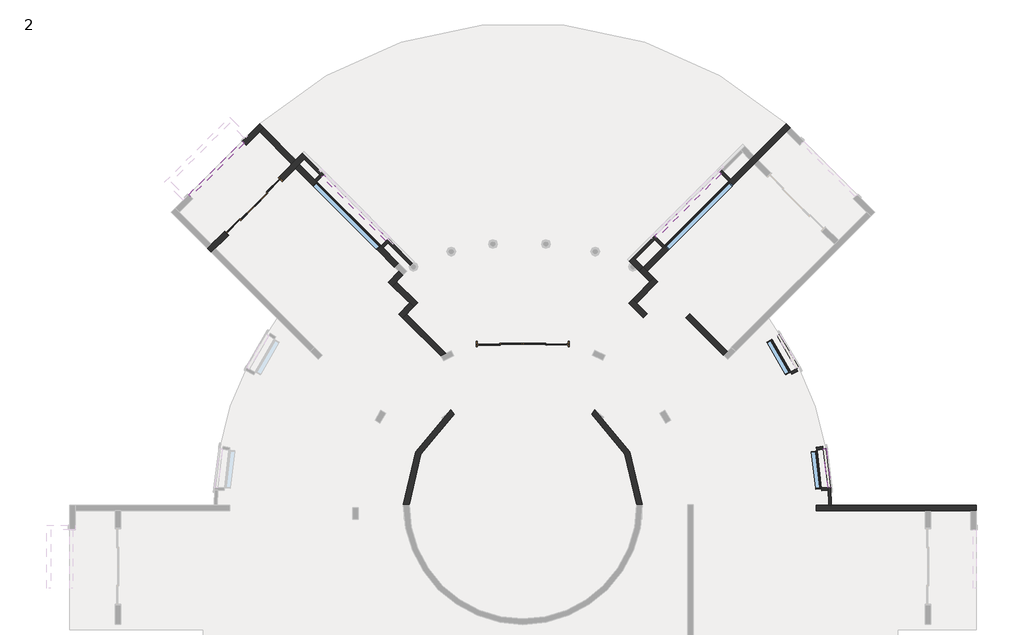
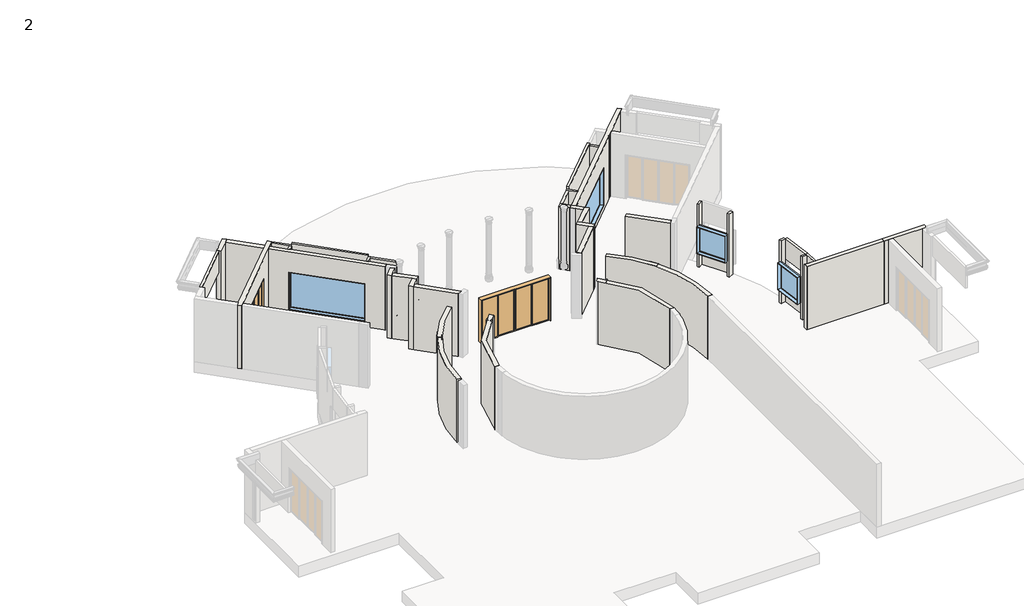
# One storey, part 4 of 10: 38 walls, 4 windows, 2 doors.
"""IFC4 building model written with IfcOpenShell, lengths in millimetres."""

from ifc_helpers import new_model, si_unit, point, frame, frame_2d, origin, origin_with_axes, place, context, project, spatial, polyline, circle_curve, trimmed, segment, composite_curve, outline, extrude, faceted_brep, transform, mapped, element, save
from ifc_brep_helpers import plane_surface, cylinder_surface, revolved_surface, advanced_brep
from components import aus_sliding_door_4_panel_type_2_6f79207a, aus_sliding_door_4_panel_type_3_7ec97240, fixed_w2_3_782477aa, fixed_w5_01558c50

model = new_model("IFC4")

# Units and contexts
model_context = context("Model", 3, world=origin())
ifc_project = project(units=[si_unit("LENGTHUNIT", "METRE", prefix="MILLI")], contexts=[model_context])

# Site, building, storey
site = spatial("IfcSite", under=ifc_project)
building = spatial("IfcBuilding", under=site)
storey = spatial("IfcBuildingStorey", under=building, Name="2", Elevation=0.0)

# Doors
placement = place(None, origin())
aus_sliding_door_4_panel_type_2_shape = aus_sliding_door_4_panel_type_2_6f79207a(model_context)
element("IfcDoor", 1, ObjectType="AUS_Sliding Door 4 Panel : Type 2", at=placement, inside=storey, context=model_context, shape_type="MappedRepresentation", body=[
    mapped(aus_sliding_door_4_panel_type_2_shape, transform((-8478.1790011, 7017.7979283, 0.0), x_axis=(0.9999998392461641, 0.0005670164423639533, 0.0), y_axis=(-0.0005670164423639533, 0.9999998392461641, 0.0), z_axis=(0.0, 0.0, 1.0))),
])
aus_sliding_door_4_panel_type_3_shape = aus_sliding_door_4_panel_type_3_7ec97240(model_context)
element("IfcDoor", 2, ObjectType="AUS_Sliding Door 4 Panel : Type 3", at=placement, inside=storey, context=model_context, shape_type="MappedRepresentation", body=[
    mapped(aus_sliding_door_4_panel_type_3_shape, transform((-19173.9898785, 12624.9493931, 0.0), x_axis=(-0.7071067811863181, -0.7071067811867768, 0.0), y_axis=(0.7071067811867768, -0.7071067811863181, 0.0), z_axis=(0.0, 0.0, 1.0))),
])

# Walls
element("IfcWall", 3, ObjectType="115mm BK WALL", at=placement, inside=storey, context=model_context, shape_type="AdvancedBrep", body=[
    advanced_brep(
    [(4032.0045138, 532.8806689, 3581.4), (4011.9076469, 1242.2990052, 3581.4), (3897.792591, 1235.7994648, 3581.4), (3903.7627565, 1121.6366503, 3581.4), (3917.7045101, 532.8806689, 3581.4), (4011.9076469, 1242.2990052, 0.0), (4032.0045138, 532.8806689, 0.0), (3917.7045101, 532.8806689, 0.0), (3903.7627565, 1121.6366503, 0.0), (3897.792591, 1235.7994648, 0.0), (4011.9076469, 1242.2990052, 762.0), (4011.9076469, 1242.2990052, 914.4), (4011.9076469, 1242.2990052, 946.15), (4011.9076469, 1242.2990052, 2438.4), (4011.9076469, 1242.2990052, 2933.7), (3897.792591, 1235.7994648, 2438.4), (3897.792591, 1235.7994648, 914.4)],
    [
        (0, 1, circle_curve(frame((-8388.5950906, 536.0156211, 3581.4), z_axis=(0.0, 0.0, 1.0), x_axis=(1.0, 0.0, 0.0)), 12420.6)),
        (1, 2),
        (2, 3, circle_curve(frame((-8388.5950906, 536.0156211, 3581.4), z_axis=(0.0, 0.0, -1.0), x_axis=(1.0, 0.0, 0.0)), 12306.3)),
        (3, 4, circle_curve(frame((-8388.5950906, 536.0156211, 3581.4), z_axis=(0.0, 0.0, -1.0), x_axis=(1.0, 0.0, 0.0)), 12306.2997457)),
        (4, 0),
        (5, 6, circle_curve(frame((-8388.5950906, 536.0156211, 0.0), z_axis=(0.0, 0.0, -1.0), x_axis=(1.0, 0.0, 0.0)), 12420.6)),
        (6, 7),
        (7, 8, circle_curve(frame((-8388.5950906, 536.0156211, 0.0), z_axis=(0.0, 0.0, 1.0), x_axis=(1.0, 0.0, 0.0)), 12306.3)),
        (8, 9, circle_curve(frame((-8388.5950906, 536.0156211, 0.0), z_axis=(0.0, 0.0, 1.0), x_axis=(1.0, 0.0, 0.0)), 12306.2997457)),
        (9, 5),
        (0, 6),
        (5, 10),
        (10, 11),
        (11, 12),
        (12, 13),
        (13, 14),
        (14, 1),
        (2, 15),
        (15, 16),
        (16, 9),
        (7, 4),
    ],
    [
        plane_surface(frame((4032.0049094, 536.0156211, 3581.4), z_axis=(0.0, 0.0, 1.0), x_axis=(0.0, 1.0, 0.0))),
        plane_surface(frame((4032.0049094, 536.0156211, 0.0), z_axis=(0.0, 0.0, -1.0), x_axis=(0.0, -1.0, 0.0))),
        cylinder_surface(frame((-8388.5950906, 536.0156211, 0.0), z_axis=(0.0, 0.0, 1.0), x_axis=(1.0, 0.0, 0.0)), 12420.6),
        revolved_surface(polyline([(3917.7049093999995, 536.0156211, 0.0), (3917.7049093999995, 536.0156211, 3581.4)]), (-8388.5950906, 536.0156211, 0.0), (0.0, 0.0, -1.0)),
        plane_surface(frame((3631.3457441, 1220.6237107, 0.0), z_axis=(-0.0568638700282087, 0.998381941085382, 0.0), x_axis=(-0.998381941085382, -0.0568638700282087, 0.0))),
        plane_surface(frame((3438.7049094, 532.8806689, 0.0), z_axis=(0.0, -1.0, 0.0), x_axis=(-1.0, 0.0, 0.0))),
    ],
    [
        (0, [[1, 2, 3, 4, 5]]),
        (1, [[6, 7, 8, 9, 10]]),
        (2, [[-1, 11, -6, 12, 13, 14, 15, 16, 17]]),
        (3, [[-4, -3, 18, 19, 20, -9, -8, 21]]),
        (4, [[-10, -20, -19, -18, -2, -17, -16, -15, -14, -13, -12]]),
        (5, [[-5, -21, -7, -11]]),
    ],
),
])
element("IfcWall", 4, ObjectType="115mm BK WALL", at=placement, inside=storey, context=model_context, shape_type="Brep", body=[
    faceted_brep([(-17188.1173327, 14449.1773287, 0.0), (-16571.0750719, 13832.1350679, 0.0), (-16490.2527668, 13751.3127628, 0.0), (-16490.2527668, 13751.3127628, 2438.4), (-16490.2527668, 13751.3127628, 3581.4), (-16571.0750719, 13832.1350679, 3581.4), (-17188.1173327, 14449.1773287, 3581.4), (-17107.2950276, 14529.9996338, 3581.4), (-16409.4304618, 13832.1350679, 3581.4), (-16409.4304618, 13832.1350679, 2933.7), (-16409.4304618, 13832.1350679, 2438.4), (-16409.4304618, 13832.1350679, 495.3), (-16409.4304618, 13832.1350679, 0.0), (-16526.1734156, 13948.8780218, 0.0), (-17107.2950276, 14529.9996338, 0.0), (-17107.2950276, 14529.9996338, 495.3)], [[[0, 1, 2, 3, 4, 5, 6]], [[7, 8, 9, 10, 11, 12, 13, 14, 15]], [[2, 1, 0, 14, 13, 12]], [[6, 5, 4, 8, 7]], [[2, 12, 11, 10, 9, 8, 4, 3]], [[0, 6, 7, 15, 14]]]),
])
element("IfcWall", 5, ObjectType="115mm BK WALL", at=placement, inside=storey, context=model_context, shape_type="Brep", body=[
    faceted_brep([(-16571.0750719, 13832.1350679, 0.0), (-16770.3416182, 13632.8685217, 0.0), (-16770.3416182, 13632.8685217, 3581.4), (-16571.0750719, 13832.1350679, 3581.4), (-16490.2527668, 13751.3127628, 0.0), (-16490.2527668, 13751.3127628, 3581.4), (-16689.5193131, 13552.0462166, 3581.4), (-16689.5193131, 13552.0462166, 2438.4), (-16689.5193131, 13552.0462166, 304.8), (-16689.5193131, 13552.0462166, 0.0)], [[[0, 1, 2, 3]], [[4, 5, 6, 7, 8, 9]], [[1, 0, 4, 9]], [[3, 2, 6, 5]], [[0, 3, 5, 4]], [[2, 1, 9, 8, 7, 6]]]),
])
element("IfcWall", 6, ObjectType="115mm BK WALL", at=placement, inside=storey, context=model_context, shape_type="Brep", body=[
    faceted_brep([(-14022.3832452, 10884.9101486, 0.0), (-13822.1309132, 11085.1624805, 0.0), (-13741.3086082, 11165.9847856, 0.0), (-13741.3086082, 11165.9847856, 495.3), (-13741.3086082, 11165.9847856, 2438.4), (-13741.3086082, 11165.9847856, 2933.7), (-13741.3086082, 11165.9847856, 3581.4), (-13822.1309132, 11085.1624805, 3581.4), (-14022.3832452, 10884.9101486, 3581.4), (-13822.1309132, 11246.8070907, 0.0), (-14103.2055503, 10965.7324537, 0.0), (-14103.2055503, 10965.7324537, 304.8), (-14103.2055503, 10965.7324537, 2438.4), (-14103.2055503, 10965.7324537, 3581.4), (-13822.1309132, 11246.8070907, 3581.4), (-13822.1309132, 11246.8070907, 2933.7), (-13822.1309132, 11246.8070907, 2438.4), (-13822.1309132, 11246.8070907, 495.3)], [[[0, 1, 2, 3, 4, 5, 6, 7, 8]], [[9, 10, 11, 12, 13, 14, 15, 16, 17]], [[2, 1, 0, 10, 9]], [[8, 7, 6, 14, 13]], [[2, 9, 17, 16, 15, 14, 6, 5, 4, 3]], [[0, 8, 13, 12, 11, 10]]]),
])
element("IfcWall", 7, ObjectType="115mm BK WALL", at=placement, inside=storey, context=model_context, shape_type="Brep", body=[
    faceted_brep([(-13822.1309132, 11085.1624805, 0.0), (-12917.0265845, 10180.0581518, 0.0), (-12917.0265845, 10180.0581518, 3581.4), (-13822.1309132, 11085.1624805, 3581.4), (-13741.3086082, 11165.9847856, 3581.4), (-12836.2042794, 10260.8804569, 3581.4), (-12836.2042794, 10260.8804569, 495.3), (-12836.2042794, 10260.8804569, 0.0), (-13691.9171995, 11116.593377, 0.0), (-13741.3086082, 11165.9847856, 0.0), (-13741.3086082, 11165.9847856, 495.3), (-13741.3086082, 11165.9847856, 2438.4), (-13741.3086082, 11165.9847856, 2933.7)], [[[0, 1, 2, 3]], [[4, 5, 6, 7, 8, 9, 10, 11, 12]], [[1, 0, 9, 8, 7]], [[2, 1, 7, 6, 5]], [[3, 2, 5, 4]], [[9, 0, 3, 4, 12, 11, 10]]]),
])
element("IfcWall", 8, ObjectType="115mm BK WALL", at=placement, inside=storey, context=model_context, shape_type="SweptSolid", body=[
    extrude(outline(composite_curve([segment(polyline([(3903.7621738, 1121.6542247), (3637.3332541, 1106.4794916)]), True, "CONTINUOUS"), segment(trimmed(circle_curve(frame_2d((-8388.5950906, 532.8806689)), 12039.6), [point((3637.3332541, 1106.4794916))], [point((3631.3457441, 1220.6237107))], True, "CARTESIAN"), True, "CONTINUOUS"), segment(polyline([(3631.3457441, 1220.6237107), (3897.792591, 1235.7994648)]), True, "CONTINUOUS"), segment(trimmed(circle_curve(frame_2d((-8388.5950906, 536.0156211)), 12306.3), [point((3897.792591, 1235.7994648))], [point((3903.7621738, 1121.6542247))], False, "CARTESIAN"), True, "CONTINUOUS")], self_intersect=False)), origin_with_axes(), (0.0, 0.0, 1.0), 3581.4),
])
element("IfcWall", 9, ObjectType="115mm BK WALL", at=placement, inside=storey, context=model_context, shape_type="SweptSolid", body=[
    extrude(outline(composite_curve([segment(polyline([(3696.3775885, 2788.1048939), (3446.6880704, 2741.5093521)]), True, "CONTINUOUS"), segment(trimmed(circle_curve(frame_2d((-8388.5950906, 532.8806689)), 12039.6), [point((3446.6880704, 2741.5093521))], [point((3425.1867088, 2853.7701014))], True, "CARTESIAN"), True, "CONTINUOUS"), segment(polyline([(3425.1867088, 2853.7701014), (3675.4095947, 2900.4651771), (3696.3775885, 2788.1048939)]), True, "CONTINUOUS")], self_intersect=False)), origin_with_axes(), (0.0, 0.0, 1.0), 3581.4),
])
element("IfcWall", 10, ObjectType="115mm BK WALL", at=placement, inside=storey, context=model_context, shape_type="SweptSolid", body=[
    extrude(outline(composite_curve([segment(polyline([(2676.3480552, 5922.2993929), (2436.4066183, 5802.7294488)]), True, "CONTINUOUS"), segment(trimmed(circle_curve(frame_2d((-8388.5950906, 532.8806689)), 12039.6), [point((2436.4066183, 5802.7294488))], [point((2385.8886248, 5905.2608515))], True, "CARTESIAN"), True, "CONTINUOUS"), segment(polyline([(2385.8886248, 5905.2608515), (2625.8433797, 6024.8374323)]), True, "CONTINUOUS"), segment(trimmed(circle_curve(frame_2d((-8388.5950906, 536.0156211)), 12306.3), [point((2625.8433797, 6024.8374323))], [point((2676.3480552, 5922.2993929))], False, "CARTESIAN"), True, "CONTINUOUS")], self_intersect=False)), origin_with_axes(), (0.0, 0.0, 1.0), 3581.4),
])
element("IfcWall", 11, ObjectType="115mm BK WALL", at=placement, inside=storey, context=model_context, shape_type="SweptSolid", body=[
    extrude(outline(composite_curve([segment(polyline([(1857.8674575, 7351.8079405), (1634.525337, 7202.8900432)]), True, "CONTINUOUS"), segment(trimmed(circle_curve(frame_2d((-8388.5950906, 532.8806689)), 12039.6), [point((1634.525337, 7202.8900432))], [point((1570.751012, 7297.7452919))], True, "CARTESIAN"), True, "CONTINUOUS"), segment(polyline([(1570.751012, 7297.7452919), (1794.1212056, 7446.6819075)]), True, "CONTINUOUS"), segment(trimmed(circle_curve(frame_2d((-8388.5950906, 536.0156211)), 12306.3), [point((1794.1212056, 7446.6819075))], [point((1857.8674575, 7351.8079405))], False, "CARTESIAN"), True, "CONTINUOUS")], self_intersect=False)), origin_with_axes(), (0.0, 0.0, 1.0), 3581.4),
])
element("IfcWall", 12, ObjectType="115mm BK WALL", at=placement, inside=storey, context=model_context, shape_type="Brep", body=[
    faceted_brep([(-3856.761253, 10426.8778601, 0.0), (-3076.44202, 11207.197093, 0.0), (-3076.44202, 11207.197093, 3581.4), (-3856.761253, 10426.8778601, 3581.4), (-3157.2643251, 11288.0193981, 0.0), (-3937.5835581, 10507.7001651, 0.0), (-3937.5835581, 10507.7001651, 495.3), (-3937.5835581, 10507.7001651, 3581.4), (-3157.2643251, 11288.0193981, 3581.4), (-3157.2643251, 11288.0193981, 2933.7), (-3157.2643251, 11288.0193981, 2438.4), (-3157.2643251, 11288.0193981, 495.3)], [[[0, 1, 2, 3]], [[4, 5, 6, 7, 8, 9, 10, 11]], [[1, 0, 5, 4]], [[3, 2, 8, 7]], [[0, 3, 7, 6, 5]], [[1, 4, 11, 10, 9, 8, 2]]]),
])
element("IfcWall", 13, ObjectType="115mm BK WALL", at=placement, inside=storey, context=model_context, shape_type="Brep", body=[
    faceted_brep([(-3157.2643251, 11288.0193981, 0.0), (-3076.44202, 11207.197093, 0.0), (-2766.1479592, 10896.9030322, 0.0), (-2766.1479592, 10896.9030322, 3581.4), (-3076.44202, 11207.197093, 3581.4), (-3157.2643251, 11288.0193981, 3581.4), (-3157.2643251, 11288.0193981, 2933.7), (-3157.2643251, 11288.0193981, 2438.4), (-3157.2643251, 11288.0193981, 495.3), (-2685.3256541, 10977.7253373, 0.0), (-3076.44202, 11368.8417032, 0.0), (-3076.44202, 11368.8417032, 495.3), (-3076.44202, 11368.8417032, 2438.4), (-3076.44202, 11368.8417032, 2933.7), (-3076.44202, 11368.8417032, 3581.4), (-2685.3256541, 10977.7253373, 3581.4), (-2685.3256541, 10977.7253373, 2438.4), (-2685.3256541, 10977.7253373, 304.8)], [[[0, 1, 2, 3, 4, 5, 6, 7, 8]], [[9, 10, 11, 12, 13, 14, 15, 16, 17]], [[2, 1, 0, 10, 9]], [[5, 4, 3, 15, 14]], [[10, 0, 8, 7, 6, 5, 14, 13, 12, 11]], [[3, 2, 9, 17, 16, 15]]]),
])
element("IfcWall", 14, ObjectType="115mm BK WALL", at=placement, inside=storey, context=model_context, shape_type="Brep", body=[
    faceted_brep([(-18.1895861, 13644.8614052, 0.0), (-328.4836469, 13955.1554661, 0.0), (-409.305952, 14035.9777712, 0.0), (-409.305952, 14035.9777712, 495.3), (-409.305952, 14035.9777712, 2438.4), (-409.305952, 14035.9777712, 2933.7), (-409.305952, 14035.9777712, 3581.4), (-328.4836469, 13955.1554661, 3581.4), (-18.1895861, 13644.8614052, 3581.4), (-490.1282571, 13955.1554661, 0.0), (-99.0118912, 13564.0391002, 0.0), (-99.0118912, 13564.0391002, 304.8), (-99.0118912, 13564.0391002, 2438.4), (-99.0118912, 13564.0391002, 3581.4), (-490.1282571, 13955.1554661, 3581.4), (-490.1282571, 13955.1554661, 2933.7), (-490.1282571, 13955.1554661, 2438.4), (-490.1282571, 13955.1554661, 495.3)], [[[0, 1, 2, 3, 4, 5, 6, 7, 8]], [[9, 10, 11, 12, 13, 14, 15, 16, 17]], [[2, 1, 0, 10, 9]], [[8, 7, 6, 14, 13]], [[0, 8, 13, 12, 11, 10]], [[2, 9, 17, 16, 15, 14, 6, 5, 4, 3]]]),
])
element("IfcWall", 15, ObjectType="115mm BK WALL", at=placement, inside=storey, context=model_context, shape_type="Brep", body=[
    faceted_brep([(-21769.6575804, 12944.0754976, 2438.4), (-19614.3961113, 15099.3369667, 2438.4), (-19614.3961113, 15099.3369667, 3581.4), (-21769.6575804, 12944.0754976, 3581.4), (-19695.2184164, 15180.1592717, 2438.4), (-21850.4798855, 13024.8978027, 2438.4), (-21850.4798855, 13024.8978027, 2933.7), (-21850.4798855, 13024.8978027, 3581.4), (-19695.2184164, 15180.1592717, 3581.4), (-19695.2184164, 15180.1592717, 2933.7)], [[[0, 1, 2, 3]], [[4, 5, 6, 7, 8, 9]], [[1, 0, 5, 4]], [[2, 1, 4, 9, 8]], [[3, 2, 8, 7]], [[0, 3, 7, 6, 5]]]),
])
element("IfcWall", 16, ObjectType="115mm BK WALL", at=placement, inside=storey, context=model_context, shape_type="Brep", body=[
    faceted_brep([(-2995.6197149, 11288.0193981, 2438.4), (-409.305952, 13874.333161, 2438.4), (-409.305952, 13874.333161, 3716.8836), (-2995.6197149, 11288.0193981, 3716.8836), (-490.1282571, 13955.1554661, 2438.4), (-3076.44202, 11368.8417032, 2438.4), (-3076.44202, 11368.8417032, 2933.7), (-3076.44202, 11368.8417032, 3581.4), (-3076.44202, 11368.8417032, 3716.8836), (-490.1282571, 13955.1554661, 3716.8836), (-490.1282571, 13955.1554661, 3581.4), (-490.1282571, 13955.1554661, 2933.7)], [[[0, 1, 2, 3]], [[4, 5, 6, 7, 8, 9, 10, 11]], [[1, 0, 5, 4]], [[3, 2, 9, 8]], [[0, 3, 8, 7, 6, 5]], [[1, 4, 11, 10, 9, 2]]]),
])
element("IfcWall", 17, ObjectType="115mm BK WALL", at=placement, inside=storey, context=model_context, shape_type="Brep", body=[
    faceted_brep([(-13822.1309132, 11246.8070907, 2438.4), (-16409.4304619, 13832.1350678, 2438.4), (-16409.4304619, 13832.1350678, 2933.7), (-16409.4304619, 13832.1350678, 3581.4), (-16409.4304619, 13832.1350678, 3713.9477095), (-13822.1309132, 11246.8070907, 3713.9477095), (-13822.1309132, 11246.8070907, 3581.4), (-13822.1309132, 11246.8070907, 2933.7), (-16490.2527729, 13751.3127568, 2438.4), (-13902.9532242, 11165.9847798, 2438.4), (-13902.9532242, 11165.9847798, 3713.9477095), (-16490.2527729, 13751.3127568, 3713.9477095), (-16490.2527729, 13751.3127568, 3581.4)], [[[0, 1, 2, 3, 4, 5, 6, 7]], [[8, 9, 10, 11, 12]], [[1, 0, 9, 8]], [[5, 4, 11, 10]], [[5, 10, 9, 0, 7, 6]], [[1, 8, 12, 11, 4, 3, 2]]]),
])
element("IfcWall", 18, ObjectType="115mm BK WALL", at=placement, inside=storey, context=model_context, shape_type="AdvancedBrep", body=[
    advanced_brep(
    [(4011.9076469, 1242.2990052, 3581.4), (3821.8052039, 2811.4120722, 3581.4), (3709.439557, 2790.472841, 3581.4), (3897.792591, 1235.7994648, 3581.4), (3821.8052039, 2811.4120722, 2438.4), (4011.9076469, 1242.2990052, 2438.4), (3897.792591, 1235.7994648, 2438.4), (3709.439557, 2790.472841, 2438.4), (4011.9076469, 1242.2990052, 2933.7), (3821.8052039, 2811.4120722, 2933.7)],
    [
        (0, 1, circle_curve(frame((-8388.5950906, 536.0156211, 3581.4), z_axis=(0.0, 0.0, 1.0), x_axis=(1.0, 0.0, 0.0)), 12420.6)),
        (1, 2),
        (2, 3, circle_curve(frame((-8388.5950906, 536.0156211, 3581.4), z_axis=(0.0, 0.0, -1.0), x_axis=(1.0, 0.0, 0.0)), 12306.3)),
        (3, 0),
        (4, 5, circle_curve(frame((-8388.5950906, 536.0156211, 2438.4), z_axis=(0.0, 0.0, -1.0), x_axis=(1.0, 0.0, 0.0)), 12420.6)),
        (5, 6),
        (6, 7, circle_curve(frame((-8388.5950906, 536.0156211, 2438.4), z_axis=(0.0, 0.0, 1.0), x_axis=(1.0, 0.0, 0.0)), 12306.3)),
        (7, 4),
        (0, 8),
        (8, 5),
        (4, 9),
        (9, 1),
        (7, 2),
        (6, 3),
    ],
    [
        plane_surface(frame((4032.0049094, 536.0156211, 3581.4), z_axis=(0.0, 0.0, 1.0), x_axis=(0.0, 1.0, 0.0))),
        plane_surface(frame((4032.0049094, 536.0156211, 2438.4), z_axis=(0.0, 0.0, -1.0), x_axis=(0.0, -1.0, 0.0))),
        cylinder_surface(frame((-8388.5950906, 536.0156211, 2438.4), z_axis=(0.0, 0.0, 1.0), x_axis=(1.0, 0.0, 0.0)), 12420.6),
        plane_surface(frame((3821.8052039, 2811.4120722, 3581.4), z_axis=(-0.18319537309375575, 0.9830765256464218, 0.0), x_axis=(0.0, 0.0, -1.0))),
        revolved_surface(polyline([(3917.7049093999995, 536.0156211, 2438.4), (3917.7049093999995, 536.0156211, 3581.4)]), (-8388.5950906, 536.0156211, 2438.4), (0.0, 0.0, -1.0)),
        plane_surface(frame((3631.3457441, 1220.6237107, 0.0), z_axis=(0.0568638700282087, -0.998381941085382, 0.0), x_axis=(-0.998381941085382, -0.0568638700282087, 0.0))),
    ],
    [
        (0, [[1, 2, 3, 4]]),
        (1, [[5, 6, 7, 8]]),
        (2, [[-1, 9, 10, -5, 11, 12]]),
        (3, [[-2, -12, -11, -8, 13]]),
        (4, [[-3, -13, -7, 14]]),
        (5, [[-4, -14, -6, -10, -9]]),
    ],
),
])
element("IfcWall", 19, ObjectType="115mm BK WALL 2", at=placement, inside=storey, context=model_context, shape_type="AdvancedBrep", body=[
    advanced_brep(
    [(2728.1446658, 6075.8172015, 609.6), (1953.2043205, 7414.8592231, 609.6), (1858.0343873, 7351.5569814, 609.6), (2625.8433797, 6024.8374323, 609.6), (1953.2043205, 7414.8592231, 0.0), (2728.1446658, 6075.8172015, 0.0), (2625.8433797, 6024.8374323, 0.0), (1858.0343873, 7351.5569814, 0.0), (2728.1446658, 6075.8172015, 457.2), (1953.2043205, 7414.8592231, 457.2)],
    [
        (0, 1, circle_curve(frame((-8388.5950907, 536.015621, 609.6), z_axis=(0.0, 0.0, 1.0), x_axis=(1.0, 0.0, 0.0)), 12420.6000002)),
        (1, 2),
        (2, 3, circle_curve(frame((-8388.5950907, 536.015621, 609.6), z_axis=(0.0, 0.0, -1.0), x_axis=(1.0, 0.0, 0.0)), 12306.3000002)),
        (3, 0),
        (4, 5, circle_curve(frame((-8388.5950907, 536.015621, 0.0), z_axis=(0.0, 0.0, -1.0), x_axis=(1.0, 0.0, 0.0)), 12420.6000002)),
        (5, 6),
        (6, 7, circle_curve(frame((-8388.5950907, 536.015621, 0.0), z_axis=(0.0, 0.0, 1.0), x_axis=(1.0, 0.0, 0.0)), 12306.3000002)),
        (7, 4),
        (0, 8),
        (8, 5),
        (4, 9),
        (9, 1),
        (7, 2),
        (6, 3),
    ],
    [
        plane_surface(frame((4032.0049095, 536.015621, 609.6), z_axis=(0.0, 0.0, 1.0), x_axis=(0.0, 1.0, 0.0))),
        plane_surface(frame((4032.0049095, 536.015621, 0.0), z_axis=(0.0, 0.0, -1.0), x_axis=(0.0, -1.0, 0.0))),
        cylinder_surface(frame((-8388.5950907, 536.015621, 0.0), z_axis=(0.0, 0.0, 1.0), x_axis=(1.0, 0.0, 0.0)), 12420.6000002),
        plane_surface(frame((1953.2043205, 7414.8592231, 609.6), z_axis=(-0.553825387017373, 0.8326328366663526, 0.0), x_axis=(0.0, 0.0, -1.0))),
        revolved_surface(polyline([(3917.7049095, 536.015621, 0.0), (3917.7049095, 536.015621, 609.6)]), (-8388.5950907, 536.015621, 0.0), (0.0, 0.0, -1.0)),
        plane_surface(frame((2386.4657361, 5905.5484432, 0.0), z_axis=(0.4460172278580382, -0.8950243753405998, 0.0), x_axis=(-0.8950243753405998, -0.4460172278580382, 0.0))),
    ],
    [
        (0, [[1, 2, 3, 4]]),
        (1, [[5, 6, 7, 8]]),
        (2, [[-1, 9, 10, -5, 11, 12]]),
        (3, [[-2, -12, -11, -8, 13]]),
        (4, [[-3, -13, -7, 14]]),
        (5, [[-4, -14, -6, -10, -9]]),
    ],
),
])
element("IfcWall", 20, ObjectType="115mm BK WALL 2", at=placement, inside=storey, context=model_context, shape_type="AdvancedBrep", body=[
    advanced_brep(
    [(4011.9076469, 1242.2990052, 914.4), (3821.8052039, 2811.4120721, 914.4), (3709.439557, 2790.472841, 914.4), (3897.792591, 1235.7994648, 914.4), (3821.8052039, 2811.4120721, 0.0), (4011.9076469, 1242.2990052, 0.0), (3897.792591, 1235.7994648, 0.0), (3709.439557, 2790.472841, 0.0), (4011.9076469, 1242.2990052, 762.0), (3821.8052039, 2811.4120721, 762.0)],
    [
        (0, 1, circle_curve(frame((-8388.5950906, 536.0156211, 914.4), z_axis=(0.0, 0.0, 1.0), x_axis=(1.0, 0.0, 0.0)), 12420.6)),
        (1, 2),
        (2, 3, circle_curve(frame((-8388.5950906, 536.0156211, 914.4), z_axis=(0.0, 0.0, -1.0), x_axis=(1.0, 0.0, 0.0)), 12306.3)),
        (3, 0),
        (4, 5, circle_curve(frame((-8388.5950906, 536.0156211, 0.0), z_axis=(0.0, 0.0, -1.0), x_axis=(1.0, 0.0, 0.0)), 12420.6)),
        (5, 6),
        (6, 7, circle_curve(frame((-8388.5950906, 536.0156211, 0.0), z_axis=(0.0, 0.0, 1.0), x_axis=(1.0, 0.0, 0.0)), 12306.3)),
        (7, 4),
        (0, 8),
        (8, 5),
        (4, 9),
        (9, 1),
        (7, 2),
        (6, 3),
    ],
    [
        plane_surface(frame((4032.0049094, 536.0156211, 914.4), z_axis=(0.0, 0.0, 1.0), x_axis=(0.0, 1.0, 0.0))),
        plane_surface(frame((4032.0049094, 536.0156211, 0.0), z_axis=(0.0, 0.0, -1.0), x_axis=(0.0, -1.0, 0.0))),
        cylinder_surface(frame((-8388.5950906, 536.0156211, 0.0), z_axis=(0.0, 0.0, 1.0), x_axis=(1.0, 0.0, 0.0)), 12420.6),
        plane_surface(frame((3821.8052039, 2811.4120721, 914.4), z_axis=(-0.1831953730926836, 0.9830765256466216, 0.0), x_axis=(0.0, 0.0, -1.0))),
        revolved_surface(polyline([(3917.7049093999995, 536.0156211, 0.0), (3917.7049093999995, 536.0156211, 914.4)]), (-8388.5950906, 536.0156211, 0.0), (0.0, 0.0, -1.0)),
        plane_surface(frame((3631.3457441, 1220.6237107, 0.0), z_axis=(0.0568638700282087, -0.998381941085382, 0.0), x_axis=(-0.998381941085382, -0.0568638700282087, 0.0))),
    ],
    [
        (0, [[1, 2, 3, 4]]),
        (1, [[5, 6, 7, 8]]),
        (2, [[-1, 9, 10, -5, 11, 12]]),
        (3, [[-2, -12, -11, -8, 13]]),
        (4, [[-3, -13, -7, 14]]),
        (5, [[-4, -14, -6, -10, -9]]),
    ],
),
])
element("IfcWall", 21, ObjectType="230mm BK WALL", at=placement, inside=storey, context=model_context, shape_type="AdvancedBrep", body=[
    advanced_brep(
    [(3420.1924441, 304.2806689, 0.0), (7803.9049094, 304.2806689, 0.0), (8032.5049094, 304.2806689, 0.0), (9632.7049094, 304.2806689, 0.0), (9861.3049094, 304.2806689, 0.0), (9861.3049094, 304.2806689, 3581.4), (9632.7049094, 304.2806689, 3581.4), (8032.5049094, 304.2806689, 3581.4), (7803.9049094, 304.2806689, 3581.4), (3420.1924441, 304.2806689, 3581.4), (3422.4049094, 532.8806689, 0.0), (3422.4049094, 532.8806689, 3581.4), (3651.0049094, 532.8806689, 3581.4), (3917.7045101, 532.8806689, 3581.4), (4032.0045138, 532.8806689, 3581.4), (9861.3049094, 532.8806689, 3581.4), (9861.3049094, 532.8806689, 0.0), (4032.0045138, 532.8806689, 0.0), (3917.7045101, 532.8806689, 0.0), (3651.0049094, 532.8806689, 0.0)],
    [
        (0, 1),
        (1, 2),
        (2, 3),
        (3, 4),
        (4, 5),
        (5, 6),
        (6, 7),
        (7, 8),
        (8, 9),
        (9, 0),
        (10, 11),
        (11, 12),
        (12, 13),
        (13, 14),
        (14, 15),
        (15, 16),
        (16, 17),
        (17, 18),
        (18, 19),
        (19, 10),
        (0, 10, circle_curve(frame((-8388.5950906, 532.8806689, 0.0), z_axis=(0.0, 0.0, 1.0), x_axis=(1.0, 0.0, 0.0)), 11811.0)),
        (16, 4),
        (5, 15),
        (11, 9, circle_curve(frame((-8388.5950906, 532.8806689, 3581.4), z_axis=(0.0, 0.0, -1.0), x_axis=(1.0, 0.0, 0.0)), 11811.0)),
    ],
    [
        plane_surface(frame((3438.7049094, 304.2806689, 0.0), z_axis=(0.0, -1.0, 0.0), x_axis=(1.0, 0.0, 0.0))),
        plane_surface(frame((3438.7049094, 532.8806689, 0.0), z_axis=(0.0, 1.0, 0.0), x_axis=(-1.0, 0.0, 0.0))),
        plane_surface(frame((3536.1571333, 304.2806689, 0.0), z_axis=(0.0, 0.0, -1.0), x_axis=(0.0, 1.0, 0.0))),
        plane_surface(frame((9747.0049094, 304.2806689, 3581.4), z_axis=(0.0, 0.0, 1.0), x_axis=(0.0, 1.0, 0.0))),
        plane_surface(frame((9861.3049094, 418.5806689, 0.0), z_axis=(1.0, 0.0, 0.0), x_axis=(0.0, 1.0, 0.0))),
        revolved_surface(polyline([(3422.4049094, 532.8806689, 0.0), (3422.4049094, 532.8806689, 3581.4)]), (-8388.5950906, 532.8806689, 0.0), (0.0, 0.0, -1.0)),
    ],
    [
        (0, [[1, 2, 3, 4, 5, 6, 7, 8, 9, 10]]),
        (1, [[11, 12, 13, 14, 15, 16, 17, 18, 19, 20]]),
        (2, [[-4, -3, -2, -1, 21, -20, -19, -18, -17, 22]]),
        (3, [[-9, -8, -7, -6, 23, -15, -14, -13, -12, 24]]),
        (4, [[-5, -22, -16, -23]]),
        (5, [[-10, -24, -11, -21]]),
    ],
),
])
element("IfcWall", 22, ObjectType="230mm BK WALL", at=placement, inside=storey, context=model_context, shape_type="Brep", body=[
    faceted_brep([(-17107.2950276, 14529.9996338, 3581.4), (-17188.1173327, 14449.1773287, 3581.4), (-17387.383879, 14249.9107824, 3581.4), (-17549.0284891, 14088.2661722, 3581.4), (-20770.2537393, 10867.040922, 3581.4), (-20931.8983495, 10705.3963119, 3581.4), (-20931.8983495, 10705.3963119, 0.0), (-20770.2537393, 10867.040922, 0.0), (-20259.7226433, 11377.572018, 0.0), (-20259.7226433, 11377.572018, 2478.4), (-18047.8926318, 13589.4020296, 2478.4), (-18047.8926318, 13589.4020296, 0.0), (-17549.0284891, 14088.2661722, 0.0), (-17387.383879, 14249.9107824, 0.0), (-17188.1173327, 14449.1773287, 0.0), (-17107.2950276, 14529.9996338, 0.0), (-17107.2950276, 14529.9996338, 495.3), (-21093.5429597, 10867.040922, 3581.4), (-20931.8983495, 11028.6855322, 3581.4), (-17699.0061459, 14261.5777358, 3581.4), (-17537.3615358, 14423.222346, 3581.4), (-17268.9396378, 14691.644244, 3581.4), (-17268.9396378, 14691.644244, 495.3), (-17268.9396378, 14691.644244, 0.0), (-17537.3615358, 14423.222346, 0.0), (-17699.0061459, 14261.5777358, 0.0), (-18209.5372419, 13751.0466398, 0.0), (-18209.5372419, 13751.0466398, 2478.4), (-20421.3672535, 11539.2166282, 2478.4), (-20421.3672535, 11539.2166282, 0.0), (-20931.8983495, 11028.6855322, 0.0), (-21093.5429597, 10867.040922, 0.0)], [[[0, 1, 2, 3, 4, 5, 6, 7, 8, 9, 10, 11, 12, 13, 14, 15, 16]], [[17, 18, 19, 20, 21, 22, 23, 24, 25, 26, 27, 28, 29, 30, 31]], [[6, 31, 30, 29, 8, 7]], [[23, 15, 14, 13, 12, 11, 26, 25, 24]], [[5, 4, 3, 2, 1, 0, 21, 20, 19, 18, 17]], [[6, 5, 17, 31]], [[15, 23, 22, 21, 0, 16]], [[27, 26, 11, 10]], [[28, 27, 10, 9]], [[29, 28, 9, 8]]]),
])
element("IfcWall", 23, ObjectType="230mm BK WALL", at=placement, inside=storey, context=model_context, shape_type="Brep", body=[
    faceted_brep([(-17549.0284891, 14088.2661722, 0.0), (-13564.0170724, 10103.2547555, 0.0), (-13564.0170724, 10103.2547555, 3581.4), (-17549.0284891, 14088.2661722, 3581.4), (-14264.8501604, 10804.0878435, 2438.4), (-14264.8501604, 10804.0878435, 304.8), (-16851.1639233, 13390.4016064, 304.8), (-16851.1639233, 13390.4016064, 2438.4), (-17387.383879, 14249.9107824, 0.0), (-17387.383879, 14249.9107824, 3581.4), (-16770.3416182, 13632.8685217, 3581.4), (-16689.5193131, 13552.0462166, 3581.4), (-14103.2055503, 10965.7324537, 3581.4), (-14022.3832452, 10884.9101486, 3581.4), (-13402.3724623, 10264.8993657, 3581.4), (-13402.3724623, 10264.8993657, 0.0), (-14022.3832452, 10884.9101486, 0.0), (-14103.2055503, 10965.7324537, 0.0), (-16689.5193131, 13552.0462166, 0.0), (-16770.3416182, 13632.8685217, 0.0), (-14103.2055503, 10965.7324537, 2438.4), (-16689.5193131, 13552.0462166, 2438.4), (-16689.5193131, 13552.0462166, 304.8), (-14103.2055503, 10965.7324537, 304.8)], [[[0, 1, 2, 3], [4, 5, 6, 7]], [[8, 9, 10, 11, 12, 13, 14, 15, 16, 17, 18, 19], [20, 21, 22, 23]], [[1, 0, 8, 19, 18, 17, 16, 15]], [[2, 1, 15, 14]], [[3, 2, 14, 13, 12, 11, 10, 9]], [[0, 3, 9, 8]], [[5, 4, 20, 23]], [[6, 5, 23, 22]], [[7, 6, 22, 21]], [[4, 7, 21, 20]]]),
])
element("IfcWall", 24, ObjectType="230mm BK WALL", at=placement, inside=storey, context=model_context, shape_type="Brep", body=[
    faceted_brep([(-13393.8750876, 9950.8045026, 0.0), (-13817.3791461, 9512.253212, 0.0), (-13817.3791461, 9512.253212, 3581.4), (-13393.8750876, 9950.8045026, 3581.4), (-13229.4340092, 9792.0055991, 0.0), (-13229.4340092, 9792.0055991, 3581.4), (-13494.1391643, 9517.8953869, 3581.4), (-13652.9380677, 9353.4543085, 3581.4), (-13652.9380677, 9353.4543085, 0.0), (-13494.1391643, 9517.8953869, 0.0)], [[[0, 1, 2, 3]], [[4, 5, 6, 7, 8, 9]], [[1, 0, 4, 9, 8]], [[3, 2, 7, 6, 5]], [[0, 3, 5, 4]], [[2, 1, 8, 7]]]),
])
element("IfcWall", 25, ObjectType="230mm BK WALL", at=placement, inside=storey, context=model_context, shape_type="Brep", body=[
    faceted_brep([(-13652.9380677, 9353.4543085, 0.0), (-12948.1854774, 8672.882643, 0.0), (-12783.7443991, 8514.0837395, 0.0), (-12783.7443991, 8514.0837395, 3581.4), (-12948.1854774, 8672.882643, 3581.4), (-13652.9380677, 9353.4543085, 3581.4), (-13494.1391643, 9517.8953869, 0.0), (-13494.1391643, 9517.8953869, 3581.4), (-12624.9454956, 8678.5248179, 3581.4), (-12624.9454956, 8678.5248179, 0.0)], [[[0, 1, 2, 3, 4, 5]], [[6, 7, 8, 9]], [[2, 1, 0, 6, 9]], [[5, 4, 3, 8, 7]], [[3, 2, 9, 8]], [[0, 5, 7, 6]]]),
])
element("IfcWall", 26, ObjectType="230mm BK WALL", at=placement, inside=storey, context=model_context, shape_type="Brep", body=[
    faceted_brep([(-12948.1854774, 8672.882643, 0.0), (-13383.6768375, 8221.9181383, 0.0), (-13383.6768375, 8221.9181383, 3581.4), (-12948.1854774, 8672.882643, 3581.4), (-12783.7443991, 8514.0837395, 0.0), (-12783.7443991, 8514.0837395, 3581.4), (-13063.1250114, 8224.7766464, 3581.4), (-13221.9470593, 8060.3116013, 3581.4), (-13221.9470593, 8060.3116013, 0.0), (-13063.1250114, 8224.7766464, 0.0)], [[[0, 1, 2, 3]], [[4, 5, 6, 7, 8, 9]], [[1, 0, 4, 9, 8]], [[3, 2, 7, 6, 5]], [[2, 1, 8, 7]], [[0, 3, 5, 4]]]),
])
element("IfcWall", 27, ObjectType="230mm BK WALL", at=placement, inside=storey, context=model_context, shape_type="SweptSolid", body=[
    extrude(outline(composite_curve([segment(polyline([(-11699.8714866, 6539.3958793), (-13221.9470593, 8060.3116013), (-13063.1250114, 8224.7766464), (-11488.380409, 6651.2320294)]), True, "CONTINUOUS"), segment(trimmed(circle_curve(frame_2d((-8388.7443851, 533.6818239)), 6857.9999998), [point((-11488.380409, 6651.2320294))], [point((-11699.8714866, 6539.3958793))], True, "CARTESIAN"), True, "CONTINUOUS")], self_intersect=False)), origin_with_axes(), (0.0, 0.0, 1.0), 3581.4),
])
element("IfcWall", 28, ObjectType="230mm BK WALL", at=placement, inside=storey, context=model_context, shape_type="Brep", body=[
    faceted_brep([(-19533.5738062, 15018.5146616, 0.0), (-18994.758439, 15557.3300288, 0.0), (-18833.1138288, 15718.974639, 0.0), (-18833.1138288, 15718.974639, 3581.4), (-18994.758439, 15557.3300288, 3581.4), (-19533.5738062, 15018.5146616, 3581.4), (-18994.758439, 15880.6192492, 0.0), (-19695.2184164, 15180.1592717, 0.0), (-19695.2184164, 15180.1592717, 279.4), (-19695.2184164, 15180.1592717, 2438.4), (-19695.2184164, 15180.1592717, 2933.7), (-19695.2184164, 15180.1592717, 3581.4), (-18994.758439, 15880.6192492, 3581.4), (-19614.3961113, 15099.3369667, 3581.4)], [[[0, 1, 2, 3, 4, 5]], [[6, 7, 8, 9, 10, 11, 12]], [[2, 1, 0, 7, 6]], [[5, 4, 3, 12, 11, 13]], [[0, 5, 13, 11, 10, 9, 8, 7]], [[3, 2, 6, 12]]]),
])
element("IfcWall", 29, ObjectType="230mm BK WALL", at=placement, inside=storey, context=model_context, shape_type="SweptSolid", body=[
    extrude(outline(polyline([(-17699.0061459, 14261.5777358), (-18994.758439, 15557.3300288), (-18833.1138288, 15718.974639), (-17537.3615358, 14423.222346), (-17699.0061459, 14261.5777358)])), origin_with_axes(), (0.0, 0.0, 1.0), 3581.4),
])
element("IfcWall", 30, ObjectType="230mm BK WALL", at=placement, inside=storey, context=model_context, shape_type="SweptSolid", body=[
    extrude(outline(composite_curve([segment(polyline([(-3543.8346026, 8070.1147348), (-5075.6425889, 6538.3067485)]), True, "CONTINUOUS"), segment(trimmed(circle_curve(frame_2d((-8388.7443851, 533.6818239)), 6857.9999998), [point((-5075.6425889, 6538.3067485))], [point((-5287.0499288, 6650.188629))], True, "CARTESIAN"), True, "CONTINUOUS"), segment(polyline([(-5287.0499288, 6650.188629), (-3705.4792127, 8231.759345), (-3543.8346026, 8070.1147348)]), True, "CONTINUOUS")], self_intersect=False)), origin_with_axes(), (0.0, 0.0, 1.0), 3581.4),
])
element("IfcWall", 31, ObjectType="230mm BK WALL", at=placement, inside=storey, context=model_context, shape_type="Brep", body=[
    faceted_brep([(-3382.1899924, 8231.759345, 0.0), (-3814.0439154, 8663.613268, 0.0), (-3975.6885255, 8825.2578782, 0.0), (-3975.6885255, 8825.2578782, 3581.4), (-3814.0439154, 8663.613268, 3581.4), (-3382.1899924, 8231.759345, 3581.4), (-3543.8346026, 8070.1147348, 0.0), (-3543.8346026, 8070.1147348, 3581.4), (-3705.4792127, 8231.759345, 3581.4), (-4137.3331357, 8663.613268, 3581.4), (-4137.3331357, 8663.613268, 0.0), (-3705.4792127, 8231.759345, 0.0)], [[[0, 1, 2, 3, 4, 5]], [[6, 7, 8, 9, 10, 11]], [[2, 1, 0, 6, 11, 10]], [[5, 4, 3, 9, 8, 7]], [[0, 5, 7, 6]], [[3, 2, 10, 9]]]),
])
element("IfcWall", 32, ObjectType="230mm BK WALL", at=placement, inside=storey, context=model_context, shape_type="Brep", body=[
    faceted_brep([(-3814.0439154, 8663.613268, 0.0), (-2955.0592679, 9522.5979155, 0.0), (-2955.0592679, 9522.5979155, 3581.4), (-3814.0439154, 8663.613268, 3581.4), (-3975.6885255, 8825.2578782, 0.0), (-3975.6885255, 8825.2578782, 3581.4), (-3278.3484883, 9522.5979155, 3581.4), (-3116.7038781, 9684.2425257, 3581.4), (-3116.7038781, 9684.2425257, 0.0), (-3278.3484883, 9522.5979155, 0.0)], [[[0, 1, 2, 3]], [[4, 5, 6, 7, 8, 9]], [[1, 0, 4, 9, 8]], [[3, 2, 7, 6, 5]], [[2, 1, 8, 7]], [[0, 3, 5, 4]]]),
])
element("IfcWall", 33, ObjectType="230mm BK WALL", at=placement, inside=storey, context=model_context, shape_type="Brep", body=[
    faceted_brep([(-3116.7038781, 9684.2425257, 0.0), (-3386.1115617, 9953.6502093, 0.0), (-3547.7561719, 10115.2948195, 0.0), (-3547.7561719, 10115.2948195, 3581.4), (-3386.1115617, 9953.6502093, 3581.4), (-3116.7038781, 9684.2425257, 3581.4), (-3278.3484883, 9522.5979155, 0.0), (-3278.3484883, 9522.5979155, 3581.4), (-3709.4007821, 9953.6502093, 3581.4), (-3709.4007821, 9953.6502093, 0.0)], [[[0, 1, 2, 3, 4, 5]], [[6, 7, 8, 9]], [[2, 1, 0, 6, 9]], [[5, 4, 3, 8, 7]], [[3, 2, 9, 8]], [[0, 5, 7, 6]]]),
])
element("IfcWall", 34, ObjectType="230mm BK WALL", at=placement, inside=storey, context=model_context, shape_type="Brep", body=[
    faceted_brep([(-3386.1115617, 9953.6502093, 0.0), (924.4113764, 14264.1731474, 0.0), (1086.0559866, 14425.8177576, 0.0), (2216.9198089, 15556.6815799, 0.0), (2378.564419, 15718.3261901, 0.0), (2378.564419, 15718.3261901, 3581.4), (2216.9198089, 15556.6815799, 3581.4), (1086.0559866, 14425.8177576, 3581.4), (924.4113764, 14264.1731474, 3581.4), (-3386.1115617, 9953.6502093, 3581.4), (62.632719, 13402.39449, 2438.4), (62.632719, 13402.39449, 304.8), (-2523.6810439, 10816.0807271, 304.8), (-2523.6810439, 10816.0807271, 2438.4), (-3547.7561719, 10115.2948195, 0.0), (-3547.7561719, 10115.2948195, 3581.4), (-2766.1479592, 10896.9030322, 3581.4), (-2685.3256541, 10977.7253373, 3581.4), (-99.0118912, 13564.0391002, 3581.4), (-18.1895861, 13644.8614052, 3581.4), (763.0926964, 14426.1436878, 3581.4), (924.7373066, 14587.788298, 3581.4), (2216.9198089, 15879.9708002, 3581.4), (2216.9198089, 15879.9708002, 0.0), (924.7373066, 14587.788298, 0.0), (763.0926964, 14426.1436878, 0.0), (-18.1895861, 13644.8614052, 0.0), (-99.0118912, 13564.0391002, 0.0), (-2685.3256541, 10977.7253373, 0.0), (-2766.1479592, 10896.9030322, 0.0), (-99.0118912, 13564.0391002, 2438.4), (-2685.3256541, 10977.7253373, 2438.4), (-2685.3256541, 10977.7253373, 304.8), (-99.0118912, 13564.0391002, 304.8)], [[[0, 1, 2, 3, 4, 5, 6, 7, 8, 9], [10, 11, 12, 13]], [[14, 15, 16, 17, 18, 19, 20, 21, 22, 23, 24, 25, 26, 27, 28, 29], [30, 31, 32, 33]], [[4, 3, 2, 1, 0, 14, 29, 28, 27, 26, 25, 24, 23]], [[9, 8, 7, 6, 5, 22, 21, 20, 19, 18, 17, 16, 15]], [[5, 4, 23, 22]], [[0, 9, 15, 14]], [[11, 10, 30, 33]], [[12, 11, 33, 32]], [[13, 12, 32, 31]], [[10, 13, 31, 30]]]),
])
element("IfcWall", 35, ObjectType="230mm BK WALL", at=placement, inside=storey, context=model_context, shape_type="SweptSolid", body=[
    extrude(outline(polyline([(-1678.3727855, 8245.911433), (-153.2193581, 6720.7580057), (-314.8639683, 6559.1133955), (-1840.0173957, 8084.2668229), (-1678.3727855, 8245.911433)])), origin_with_axes(), (0.0, 0.0, 1.0), 3581.4),
])
element("IfcWall", 36, ObjectType="230mm BK WALL", at=placement, inside=storey, context=model_context, shape_type="SweptSolid", body=[
    extrude(outline(composite_curve([segment(polyline([(-4250.7725905, 5715.5300113), (-4108.089056, 5894.1339558)]), True, "CONTINUOUS"), segment(trimmed(circle_curve(frame_2d((-8388.5950906, 536.0156211)), 6858.0), [point((-4108.089056, 5894.1339558))], [point((-1530.5950906, 536.0156211))], False, "CARTESIAN"), True, "CONTINUOUS"), segment(polyline([(-1530.5950906, 536.0156211), (-1759.1950906, 536.0156211)]), True, "CONTINUOUS"), segment(trimmed(circle_curve(frame_2d((-8388.5950906, 536.0156211)), 6629.4), [point((-1759.1950906, 536.0156211))], [point((-4250.7725905, 5715.5300113))], True, "CARTESIAN"), True, "CONTINUOUS")], self_intersect=False)), origin_with_axes(), (0.0, 0.0, 1.0), 3581.4),
])
element("IfcWall", 37, ObjectType="230mm BK WALL", at=placement, inside=storey, context=model_context, shape_type="SweptSolid", body=[
    extrude(outline(composite_curve([segment(polyline([(-5627.9993073, 4196.4233868), (-5490.3518721, 4378.9367934)]), True, "CONTINUOUS"), segment(trimmed(circle_curve(frame_2d((-8388.5950906, 536.0156211)), 4813.3), [point((-5490.3518721, 4378.9367934))], [point((-3575.2950906, 536.0156211))], False, "CARTESIAN"), True, "CONTINUOUS"), segment(polyline([(-3575.2950906, 536.0156211), (-3803.8950906, 536.0156211)]), True, "CONTINUOUS"), segment(trimmed(circle_curve(frame_2d((-8388.5950906, 536.0156211)), 4584.7), [point((-3803.8950906, 536.0156211))], [point((-5627.9993073, 4196.4233868))], True, "CARTESIAN"), True, "CONTINUOUS")], self_intersect=False)), origin_with_axes(), (0.0, 0.0, 1.0), 3581.4),
])
element("IfcWall", 38, ObjectType="230mm BK WALL", at=placement, inside=storey, context=model_context, shape_type="SweptSolid", body=[
    extrude(outline(composite_curve([segment(polyline([(-12973.2950906, 536.0156211), (-13201.8950906, 536.0156211)]), True, "CONTINUOUS"), segment(trimmed(circle_curve(frame_2d((-8388.5950906, 536.0156211)), 4813.3), [point((-13201.8950906, 536.0156211))], [point((-11299.2339747, 4369.5568268))], False, "CARTESIAN"), True, "CONTINUOUS"), segment(polyline([(-11299.2339747, 4369.5568268), (-11160.9978272, 4187.4889068)]), True, "CONTINUOUS"), segment(trimmed(circle_curve(frame_2d((-8388.5950906, 536.0156211)), 4584.7), [point((-11160.9978272, 4187.4889068))], [point((-12973.2950906, 536.0156211))], True, "CARTESIAN"), True, "CONTINUOUS")], self_intersect=False)), origin_with_axes(), (0.0, 0.0, 1.0), 3581.4),
])
element("IfcWall", 39, ObjectType="230mm BK WALL", at=placement, inside=storey, context=model_context, shape_type="Brep", body=[
    faceted_brep([(-4099.2281682, 10346.055555, 0.0), (-3726.5475392, 9973.3749259, 0.0), (-3726.5475392, 9973.3749259, 3581.4), (-4099.2281682, 10346.055555, 3581.4), (-4099.2281682, 10346.055555, 495.3), (-3564.902929, 10135.0195361, 0.0), (-3856.761253, 10426.8778601, 0.0), (-3937.5835581, 10507.7001651, 0.0), (-3937.5835581, 10507.7001651, 495.3), (-3937.5835581, 10507.7001651, 3581.4), (-3856.761253, 10426.8778601, 3581.4), (-3564.902929, 10135.0195361, 3581.4)], [[[0, 1, 2, 3, 4]], [[5, 6, 7, 8, 9, 10, 11]], [[1, 0, 7, 6, 5]], [[2, 1, 5, 11]], [[3, 2, 11, 10, 9]], [[3, 9, 8, 7, 0, 4]]]),
])
element("IfcWall", 40, ObjectType="230mm BK WALL", at=placement, inside=storey, context=model_context, shape_type="SweptSolid", body=[
    extrude(outline(composite_curve([segment(polyline([(-15018.1443849, 533.6818239), (-15246.7443849, 533.6818239)]), True, "CONTINUOUS"), segment(trimmed(circle_curve(frame_2d((-8388.7443851, 533.6818239)), 6857.9999998), [point((-15246.7443849, 533.6818239))], [point((-12669.2007431, 5891.8398437))], False, "CARTESIAN"), True, "CONTINUOUS"), segment(polyline([(-12669.2007431, 5891.8398437), (-12526.5188645, 5713.2345763)]), True, "CONTINUOUS"), segment(trimmed(circle_curve(frame_2d((-8388.7443851, 533.6818239)), 6629.3999998), [point((-12526.5188645, 5713.2345763))], [point((-15018.1443849, 533.6818239))], True, "CARTESIAN"), True, "CONTINUOUS")], self_intersect=False)), origin_with_axes(), (0.0, 0.0, 1.0), 3581.4),
])

# Windows
fixed_w2_3_shape = fixed_w2_3_782477aa(model_context)
element("IfcWindow", 41, ObjectType="Fixed : W2 3", at=placement, inside=storey, context=model_context, shape_type="MappedRepresentation", body=[
    mapped(fixed_w2_3_shape, transform((1934.3197462, 6454.4845038, 914.4), x_axis=(0.5003566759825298, -0.8658193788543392, 0.0), y_axis=(0.8658193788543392, 0.5003566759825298, 0.0), z_axis=(0.0, 0.0, 1.0))),
])
element("IfcWindow", 42, ObjectType="Fixed : W2 3", at=placement, inside=storey, context=model_context, shape_type="MappedRepresentation", body=[
    mapped(fixed_w2_3_shape, transform((3432.9650103, 1903.5299627, 914.4), x_axis=(0.11835289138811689, -0.9929715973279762, 0.0), y_axis=(0.9929715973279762, 0.11835289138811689, 0.0), z_axis=(0.0, 0.0, 1.0))),
])
fixed_w5_shape = fixed_w5_01558c50(model_context)
element("IfcWindow", 43, ObjectType="Fixed : W5", at=placement, inside=storey, context=model_context, shape_type="MappedRepresentation", body=[
    mapped(fixed_w5_shape, transform((-15450.2439684, 12151.1262617, -609.6), x_axis=(0.7071067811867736, -0.7071067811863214, 0.0), y_axis=(0.7071067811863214, 0.7071067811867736, 0.0), z_axis=(0.0, 0.0, 1.0))),
])
element("IfcWindow", 44, ObjectType="Fixed : W5", at=placement, inside=storey, context=model_context, shape_type="MappedRepresentation", body=[
    mapped(fixed_w5_shape, transform((-1284.4056992, 12217.000682, -609.6), x_axis=(0.7071067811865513, 0.7071067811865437, 0.0), y_axis=(-0.7071067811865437, 0.7071067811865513, 0.0), z_axis=(0.0, 0.0, 1.0))),
])

save(model, "model.ifc")
